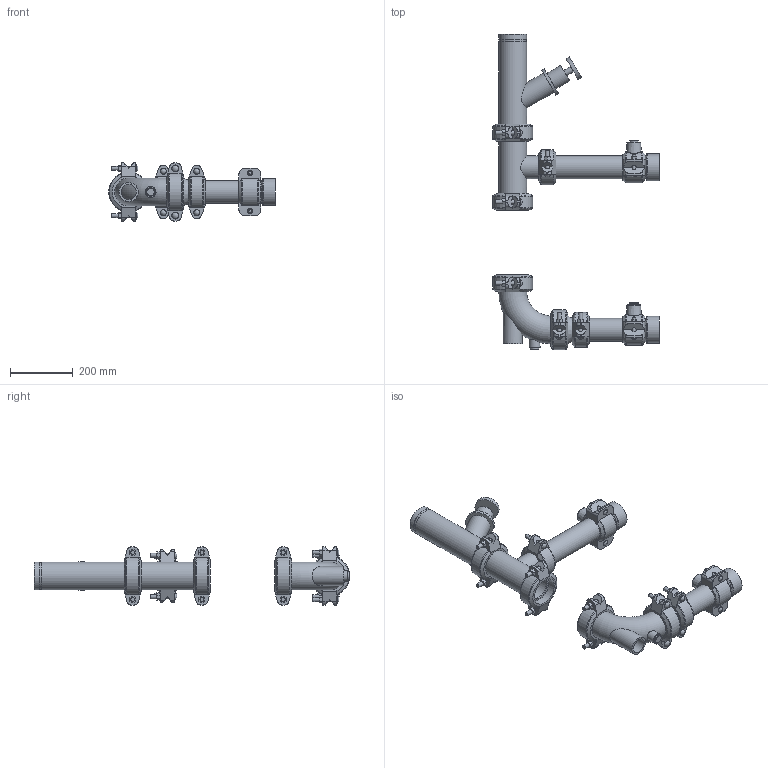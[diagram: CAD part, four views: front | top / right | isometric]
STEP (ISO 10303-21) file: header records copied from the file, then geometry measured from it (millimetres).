
FILE_DESCRIPTION(/* description */ ('VIC RVI DOUBLE COIL AHU DROP LOW PROFILE SERIES 385J (OGSxFPT)','CAx-IF Rec.Pracs.---Representation and Presentation of Product Manufacturing Information (PMI)---4.0---2014-10-13'),/* implementation_level */ '2;1');
FILE_NAME(/* name */ 'C:\Users\kkamble\AppData\Roaming\Autodesk\ApplicationPlugins\Victaulic.Temp\A836\Victaulic_IPS_RVI_Double Coil_Low Profile_Series 385J (OGSxFPT)_03.0x02.5 (80x65).stp',/* time_stamp */ '2021-03-17T12:26:20+06:00',/* author */ ('Vjadhav'),/* organization */ ('Victaulic'),/* preprocessor_version */ 'ST-DEVELOPER v17.2',/* originating_system */ 'Autodesk Inventor 2019',/* authorisation */ '');
FILE_SCHEMA (('AP242_MANAGED_MODEL_BASED_3D_ENGINEERING_MIM_LF { 1 0 10303 442 1 1 4 }'));
Length unit declared in the file: inch
Products named in the file (11): 385J-03.0x02.5; Pipe-02.5; 050-03.0x02.5; 025-03.0x02.5; 177N-03.0; 177N-02.5; Pipe_(10 1/4")-02.5; 072-02.5x0.75; 080-02.5; 100G-03.0; 789-03.0
Assembly tree (16 placements, depth 2):
  385J-03.0x02.5
    080-02.5  x2
    072-02.5x0.75  x2
    Pipe-02.5
    177N-02.5  x2
    050-03.0x02.5
    177N-03.0  x4
    025-03.0x02.5
    Pipe_(10 1/4")-02.5
    100G-03.0
    789-03.0
Bounding box: 530.35 x 1005.08 x 185.18 mm (x, y, z)
Volume: 5907238 mm3; surface area: 1357816 mm2
Topology: 16 solids, 16 shells, 864 faces, 2387 edges, 1594 vertices
Faces by surface type: plane 491, cylinder 273, torus 44, cone 38, sphere 12, bspline 6
Full cylindrical faces by diameter (mm): 10.16 x8, 12.7 x12, 14.605 x4, 17.78 x4, 19.05 x5, 20.93 x3, 22.225 x8, 26.67 x4, 34.29 x1, 48.26 x1, 57.15 x1, 60.325 x2, 60.96 x1, 62.713 x6, 69.088 x8, 69.85 x1, 73.025 x22, 76.2 x5, 77.927 x5, 84.938 x7, 85.725 x2, 88.9 x18, 92.05 x1
Entity records: 14505 total; most frequent: CARTESIAN_POINT 3067, DIRECTION 2355, ORIENTED_EDGE 2158, EDGE_CURVE 1079, AXIS2_PLACEMENT_3D 924, VERTEX_POINT 736, LINE 507, VECTOR 507
